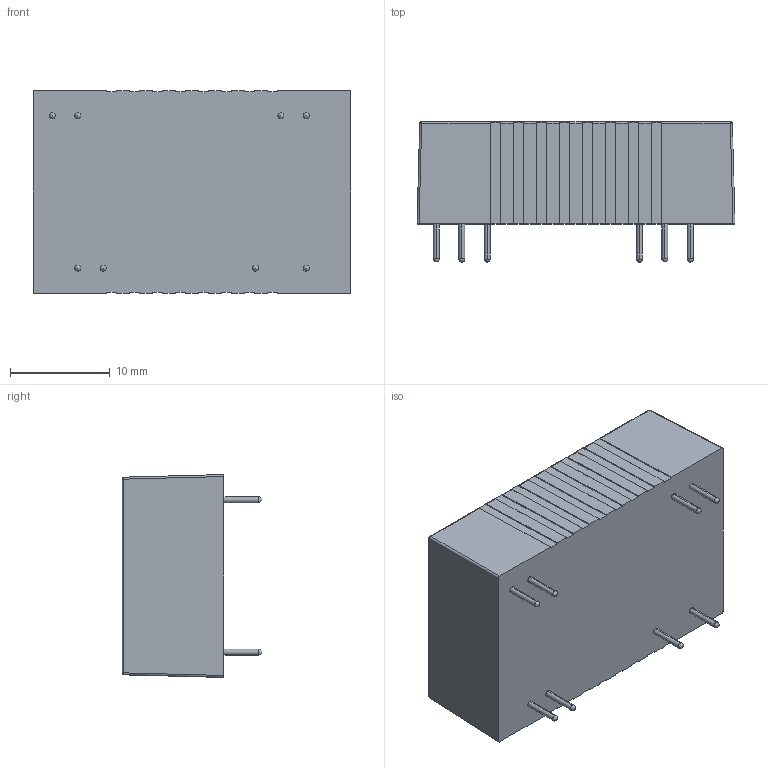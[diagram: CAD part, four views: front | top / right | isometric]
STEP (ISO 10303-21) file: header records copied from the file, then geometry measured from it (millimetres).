
FILE_DESCRIPTION (( 'STEP AP214' ), '1' );
FILE_NAME ('MPP03(W)-B-V00.STEP', '2017-03-08T08:59:14', ( 'user' ), ( '' ), 'SwSTEP 2.0', 'SolidWorks 2016', '' );
FILE_SCHEMA (( 'AUTOMOTIVE_DESIGN' ));
Length unit declared in the file: millimetre
Products named in the file (1): MPP03(W)-B-V00
Bounding box: 31.8 x 14 x 20.3 mm (x, y, z)
Volume: 6434.5 mm3; surface area: 2389.6 mm2
Topology: 1 solids, 1 shells, 109 faces, 310 edges, 200 vertices
Faces by surface type: plane 71, cylinder 26, sphere 12
Entity records: 3618 total; most frequent: CARTESIAN_POINT 588, DIRECTION 578, ORIENTED_EDGE 564, EDGE_CURVE 282, LINE 198, VECTOR 198, AXIS2_PLACEMENT_3D 190, VERTEX_POINT 184
